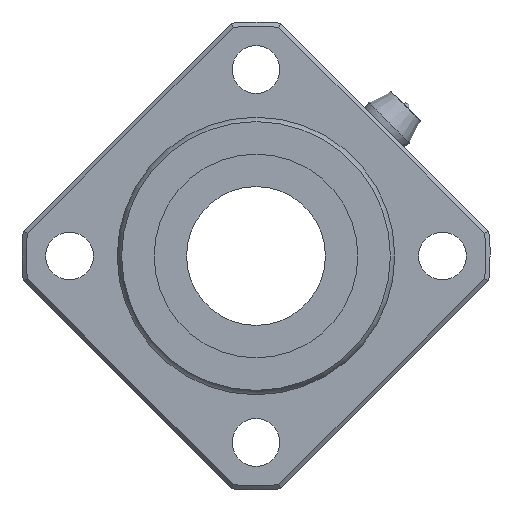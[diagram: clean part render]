
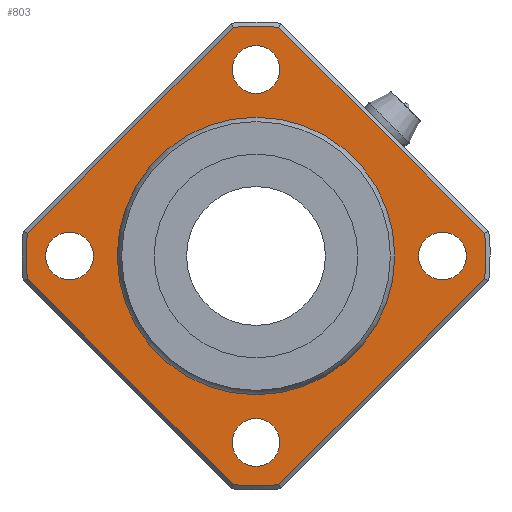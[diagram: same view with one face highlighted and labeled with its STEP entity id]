
A CAD part, left-side view. The second image highlights one B-rep face of the part: STEP entity #803.
In plain terms, the highlighted planar face has unit normal (-1, 0, 0).
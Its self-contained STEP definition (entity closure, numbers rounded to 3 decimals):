
#490=CARTESIAN_POINT('',(8.,-2.621,-26.37));
#491=VERTEX_POINT('',#490);
#499=CARTESIAN_POINT('',(8.,2.621,-26.37));
#500=VERTEX_POINT('',#499);
#501=CARTESIAN_POINT('',(8.,0.0,0.0));
#502=DIRECTION('',(1.0,0.0,0.0));
#503=DIRECTION('',(0.0,0.0,-1.0));
#504=AXIS2_PLACEMENT_3D('',#501,#502,#503);
#505=CIRCLE('',#504,26.5);
#506=EDGE_CURVE('',#491,#500,#505,.T.);
#525=CARTESIAN_POINT('',(8.,26.37,-2.621));
#526=VERTEX_POINT('',#525);
#527=CARTESIAN_POINT('',(8.,2.621,-26.37));
#528=DIRECTION('',(0.0,0.707,0.707));
#529=VECTOR('',#528,33.586);
#530=LINE('',#527,#529);
#531=EDGE_CURVE('',#500,#526,#530,.T.);
#558=CARTESIAN_POINT('',(8.,26.37,2.621));
#559=VERTEX_POINT('',#558);
#560=CARTESIAN_POINT('',(8.,0.0,0.0));
#561=DIRECTION('',(1.0,0.0,0.0));
#562=DIRECTION('',(0.0,0.0,1.0));
#563=AXIS2_PLACEMENT_3D('',#560,#561,#562);
#564=CIRCLE('',#563,26.5);
#565=EDGE_CURVE('',#526,#559,#564,.T.);
#591=CARTESIAN_POINT('',(8.,2.621,26.37));
#592=VERTEX_POINT('',#591);
#593=CARTESIAN_POINT('',(8.,26.37,2.621));
#594=DIRECTION('',(0.0,-0.707,0.707));
#595=VECTOR('',#594,33.586);
#596=LINE('',#593,#595);
#597=EDGE_CURVE('',#559,#592,#596,.T.);
#624=CARTESIAN_POINT('',(8.,-2.621,26.37));
#625=VERTEX_POINT('',#624);
#626=CARTESIAN_POINT('',(8.,0.0,0.0));
#627=DIRECTION('',(1.0,0.0,0.0));
#628=DIRECTION('',(0.0,0.0,1.0));
#629=AXIS2_PLACEMENT_3D('',#626,#627,#628);
#630=CIRCLE('',#629,26.5);
#631=EDGE_CURVE('',#592,#625,#630,.T.);
#655=CARTESIAN_POINT('',(8.,-26.37,2.621));
#656=VERTEX_POINT('',#655);
#657=CARTESIAN_POINT('',(8.,-2.621,26.37));
#658=DIRECTION('',(0.0,-0.707,-0.707));
#659=VECTOR('',#658,33.586);
#660=LINE('',#657,#659);
#661=EDGE_CURVE('',#625,#656,#660,.T.);
#680=CARTESIAN_POINT('',(8.,-26.37,-2.621));
#681=VERTEX_POINT('',#680);
#682=CARTESIAN_POINT('',(8.,0.0,0.0));
#683=DIRECTION('',(1.0,0.0,0.0));
#684=DIRECTION('',(0.0,0.0,1.0));
#685=AXIS2_PLACEMENT_3D('',#682,#683,#684);
#686=CIRCLE('',#685,26.5);
#687=EDGE_CURVE('',#656,#681,#686,.T.);
#706=CARTESIAN_POINT('',(8.,-26.37,-2.621));
#707=DIRECTION('',(0.0,0.707,-0.707));
#708=VECTOR('',#707,33.586);
#709=LINE('',#706,#708);
#710=EDGE_CURVE('',#681,#491,#709,.T.);
#733=CARTESIAN_POINT('',(8.,0.0,21.387));
#734=DIRECTION('',(-1.0,0.0,0.0));
#735=DIRECTION('',(0.0,0.0,1.0));
#736=AXIS2_PLACEMENT_3D('',#733,#734,#735);
#737=PLANE('',#736);
#738=ORIENTED_EDGE('',*,*,#506,.F.);
#739=ORIENTED_EDGE('',*,*,#710,.F.);
#740=ORIENTED_EDGE('',*,*,#687,.F.);
#741=ORIENTED_EDGE('',*,*,#661,.F.);
#742=ORIENTED_EDGE('',*,*,#631,.F.);
#743=ORIENTED_EDGE('',*,*,#597,.F.);
#744=ORIENTED_EDGE('',*,*,#565,.F.);
#745=ORIENTED_EDGE('',*,*,#531,.F.);
#746=EDGE_LOOP('',(#738,#739,#740,#741,#742,#743,#744,#745));
#747=FACE_OUTER_BOUND('',#746,.T.);
#748=CARTESIAN_POINT('',(8.,0.0,15.773));
#749=VERTEX_POINT('',#748);
#750=CARTESIAN_POINT('',(8.,0.0,0.0));
#751=DIRECTION('',(-1.0,0.0,0.0));
#752=DIRECTION('',(0.0,0.0,1.0));
#753=AXIS2_PLACEMENT_3D('',#750,#751,#752);
#754=CIRCLE('',#753,15.773);
#755=EDGE_CURVE('',#749,#749,#754,.T.);
#756=ORIENTED_EDGE('',*,*,#755,.F.);
#757=EDGE_LOOP('',(#756));
#758=FACE_BOUND('',#757,.T.);
#759=CARTESIAN_POINT('',(8.,18.75,0.));
#760=VERTEX_POINT('',#759);
#761=CARTESIAN_POINT('',(8.,21.5,0.));
#762=DIRECTION('',(1.0,0.0,0.0));
#763=DIRECTION('',(0.0,1.0,0.0));
#764=AXIS2_PLACEMENT_3D('',#761,#762,#763);
#765=CIRCLE('',#764,2.75);
#766=EDGE_CURVE('',#760,#760,#765,.T.);
#767=ORIENTED_EDGE('',*,*,#766,.T.);
#768=EDGE_LOOP('',(#767));
#769=FACE_BOUND('',#768,.T.);
#770=CARTESIAN_POINT('',(8.,-24.25,0.));
#771=VERTEX_POINT('',#770);
#772=CARTESIAN_POINT('',(8.,-21.5,0.));
#773=DIRECTION('',(1.0,0.0,0.0));
#774=DIRECTION('',(0.0,1.0,0.0));
#775=AXIS2_PLACEMENT_3D('',#772,#773,#774);
#776=CIRCLE('',#775,2.75);
#777=EDGE_CURVE('',#771,#771,#776,.T.);
#778=ORIENTED_EDGE('',*,*,#777,.T.);
#779=EDGE_LOOP('',(#778));
#780=FACE_BOUND('',#779,.T.);
#781=CARTESIAN_POINT('',(8.,-2.75,21.5));
#782=VERTEX_POINT('',#781);
#783=CARTESIAN_POINT('',(8.,0.,21.5));
#784=DIRECTION('',(1.0,0.0,0.0));
#785=DIRECTION('',(0.0,1.0,0.0));
#786=AXIS2_PLACEMENT_3D('',#783,#784,#785);
#787=CIRCLE('',#786,2.75);
#788=EDGE_CURVE('',#782,#782,#787,.T.);
#789=ORIENTED_EDGE('',*,*,#788,.T.);
#790=EDGE_LOOP('',(#789));
#791=FACE_BOUND('',#790,.T.);
#792=CARTESIAN_POINT('',(8.,-2.75,-21.5));
#793=VERTEX_POINT('',#792);
#794=CARTESIAN_POINT('',(8.,0.,-21.5));
#795=DIRECTION('',(1.0,0.0,0.0));
#796=DIRECTION('',(0.0,1.0,0.0));
#797=AXIS2_PLACEMENT_3D('',#794,#795,#796);
#798=CIRCLE('',#797,2.75);
#799=EDGE_CURVE('',#793,#793,#798,.T.);
#800=ORIENTED_EDGE('',*,*,#799,.T.);
#801=EDGE_LOOP('',(#800));
#802=FACE_BOUND('',#801,.T.);
#803=ADVANCED_FACE('',(#747,#758,#769,#780,#791,#802),#737,.T.);
